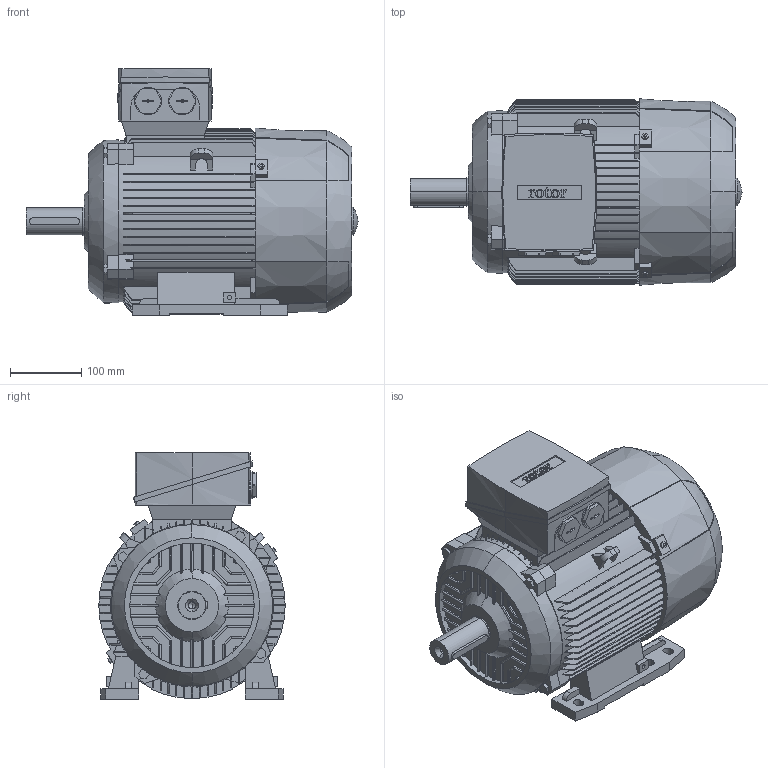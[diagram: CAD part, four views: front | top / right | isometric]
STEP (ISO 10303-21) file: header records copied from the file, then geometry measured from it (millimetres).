
FILE_DESCRIPTION (( 'STEP AP214' ), '1' );
FILE_NAME ('6RN132M06E13 IM1041.STEP', '2016-12-29T10:04:26', ( 'rbc_ict' ), ( 'Microsoft' ), 'SwSTEP 2.0', 'SolidWorks 2015', '' );
FILE_SCHEMA (( 'AUTOMOTIVE_DESIGN' ));
Length unit declared in the file: millimetre
Products named in the file (1): 6RN132M06E13 IM1041
Bounding box: 466.5 x 262 x 346.5 mm (x, y, z)
Volume: 19043630.7 mm3; surface area: 814689.2 mm2
Topology: 1 solids, 1 shells, 1109 faces, 3172 edges, 2094 vertices
Faces by surface type: plane 686, cylinder 231, bspline 168, cone 24
Entity records: 53414 total; most frequent: CARTESIAN_POINT 15100, ORIENTED_EDGE 6336, DIRECTION 4708, EDGE_CURVE 3168, VERTEX_POINT 2094, LINE 1872, VECTOR 1872, AXIS2_PLACEMENT_3D 1418
